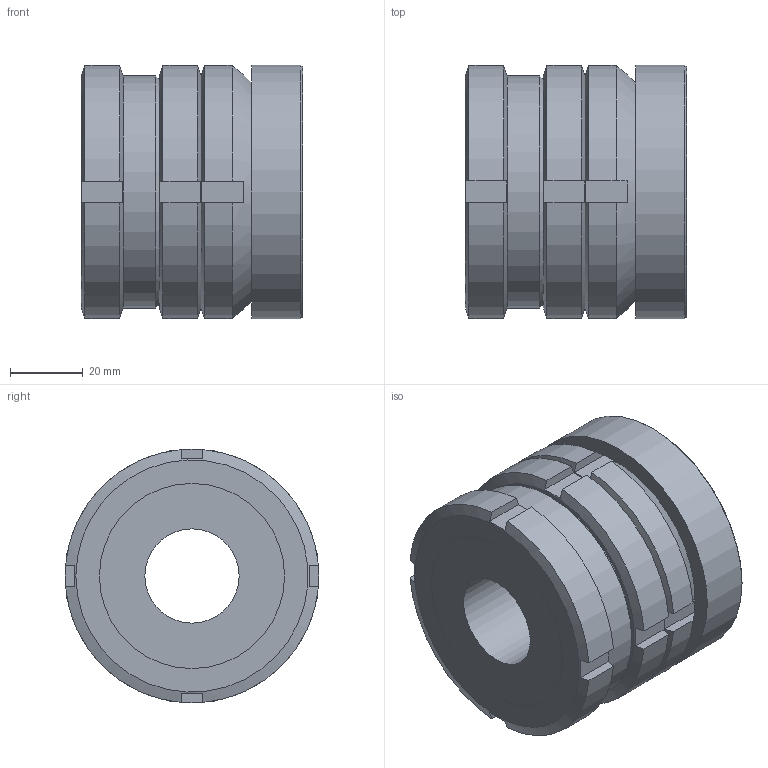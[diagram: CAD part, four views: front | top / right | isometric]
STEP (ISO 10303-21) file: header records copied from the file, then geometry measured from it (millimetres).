
FILE_DESCRIPTION( ( 'STEP AP203' ), '1' );
FILE_NAME( 'C:/Temp/Ganter_Step_05_03_2020/data/3_2/gn350_5/gn350_5_st/Levelling set GN 350.5-70-26-61-ST (0-0).stp', '2020-03-13T05:28:37', ( 'License CC BY-ND 4.0' ), ( 'CADENAS' ), ' ', 'PARTsolutions', ' ' );
FILE_SCHEMA( ( 'CONFIG_CONTROL_DESIGN' ) );
Length unit declared in the file: millimetre
Products named in the file (5): Levelling set GN 350.5-70-26-61-ST (0-0); _Levelling set GN 350.5-70-26-61-ST-G; _Levelling set GN 350.5-70-26-61-ST-K; _Levelling set GN 350.5-70-26-61-ST-P(0); _Levelling set GN 350.5-70-26-61-ST-KM
Assembly tree (4 placements, depth 2):
  Levelling set GN 350.5-70-26-61-ST (0-0)
    _Levelling set GN 350.5-70-26-61-ST-G
    _Levelling set GN 350.5-70-26-61-ST-K
    _Levelling set GN 350.5-70-26-61-ST-P(0)
    _Levelling set GN 350.5-70-26-61-ST-KM
Bounding box: 61 x 70 x 70 mm (x, y, z)
Volume: 186450.9 mm3; surface area: 49635.9 mm2
Topology: 4 solids, 4 shells, 85 faces, 211 edges, 140 vertices
Faces by surface type: plane 50, cylinder 24, cone 9, sphere 2
Full cylindrical faces by diameter (mm): 26 x1, 40 x1, 43.529 x1, 44.5 x1, 48.376 x1, 48.917 x1, 49 x1, 50 x1, 51 x2, 64 x1, 70 x1
Entity records: 2696 total; most frequent: CARTESIAN_POINT 698, DIRECTION 368, ORIENTED_EDGE 356, EDGE_CURVE 178, AXIS2_PLACEMENT_3D 160, VERTEX_POINT 130, EDGE_LOOP 122, FACE_OUTER_BOUND 99
